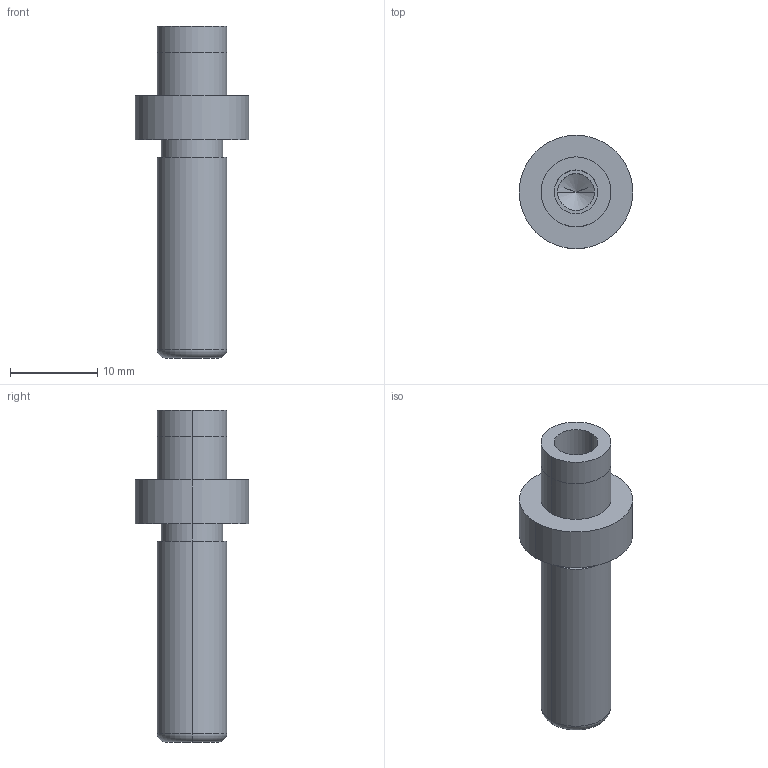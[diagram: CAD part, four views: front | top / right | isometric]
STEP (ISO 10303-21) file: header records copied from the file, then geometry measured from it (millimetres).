
FILE_DESCRIPTION(/* description */ (''),/* implementation_level */ '2;1');
FILE_NAME(/* name */ '3d_sgpr8-30_00286_r00.stp',/* time_stamp */ '2011-01-10T14:11:06+09:00',/* author */ ('MISUMI'),/* organization */ (''),/* preprocessor_version */ 'ST-DEVELOPER v11',/* originating_system */ 'UGS - NX 5.0',/* authorisation */ '');
FILE_SCHEMA (('CONFIG_CONTROL_DESIGN'));
Length unit declared in the file: millimetre
Products named in the file (1): 3d_sgpr8-30_00286_r00
Bounding box: 13 x 13 x 38 mm (x, y, z)
Volume: 2011 mm3; surface area: 1535.3 mm2
Topology: 1 solids, 1 shells, 24 faces, 48 edges, 29 vertices
Faces by surface type: cylinder 14, plane 6, cone 2, torus 2
Entity records: 706 total; most frequent: DIRECTION 126, CARTESIAN_POINT 100, ORIENTED_EDGE 92, AXIS2_PLACEMENT_3D 55, EDGE_CURVE 46, CIRCLE 30, EDGE_LOOP 29, VERTEX_POINT 29
